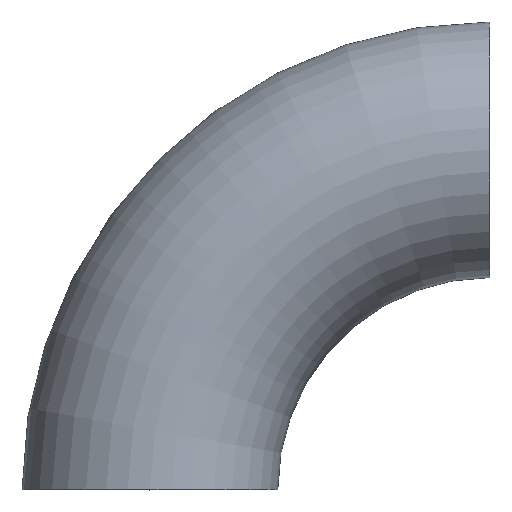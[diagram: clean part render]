
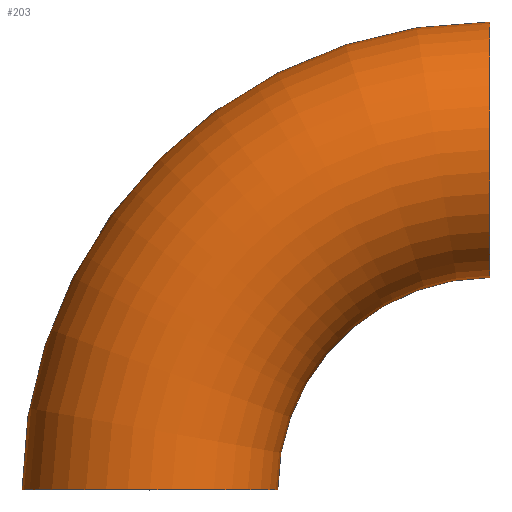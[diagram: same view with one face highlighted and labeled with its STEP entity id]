
A CAD part, top view. The second image highlights one B-rep face of the part: STEP entity #203.
In plain terms, the highlighted toroidal (fillet/blend) face has major radius 152 mm and minor radius 57.15 mm.
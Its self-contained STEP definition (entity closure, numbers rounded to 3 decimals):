
#7 = CARTESIAN_POINT ( 'NONE',  ( 152., 209.15, 0. ) ) ;
#15 = ORIENTED_EDGE ( 'NONE', *, *, #184, .T. ) ;
#27 = CARTESIAN_POINT ( 'NONE',  ( 152., 0., 0. ) ) ;
#32 = ORIENTED_EDGE ( 'NONE', *, *, #219, .F. ) ;
#39 = DIRECTION ( 'NONE',  ( 1., 0., 0. ) ) ;
#40 = FACE_OUTER_BOUND ( 'NONE', #201, .T. ) ;
#47 = TOROIDAL_SURFACE ( 'NONE', #60, 152., 57.15 ) ;
#50 = AXIS2_PLACEMENT_3D ( 'NONE', #100, #124, #252 ) ;
#57 = VERTEX_POINT ( 'NONE', #7 ) ;
#60 = AXIS2_PLACEMENT_3D ( 'NONE', #132, #61, #225 ) ;
#61 = DIRECTION ( 'NONE',  ( 0., 0., 1. ) ) ;
#72 = DIRECTION ( 'NONE',  ( 1., 0., 0. ) ) ;
#74 = AXIS2_PLACEMENT_3D ( 'NONE', #165, #82, #206 ) ;
#82 = DIRECTION ( 'NONE',  ( 0., 0., 1. ) ) ;
#91 = VERTEX_POINT ( 'NONE', #140 ) ;
#95 = AXIS2_PLACEMENT_3D ( 'NONE', #27, #169, #39 ) ;
#96 = VERTEX_POINT ( 'NONE', #226 ) ;
#99 = CIRCLE ( 'NONE', #74, 209.15 ) ;
#100 = CARTESIAN_POINT ( 'NONE',  ( 0., 0., 0. ) ) ;
#107 = DIRECTION ( 'NONE',  ( 0., 0., 1. ) ) ;
#109 = ORIENTED_EDGE ( 'NONE', *, *, #192, .F. ) ;
#112 = AXIS2_PLACEMENT_3D ( 'NONE', #211, #72, #107 ) ;
#124 = DIRECTION ( 'NONE',  ( 0., 1., 0. ) ) ;
#132 = CARTESIAN_POINT ( 'NONE',  ( 152., 0., 0. ) ) ;
#140 = CARTESIAN_POINT ( 'NONE',  ( 152., 94.85, 0. ) ) ;
#147 = CARTESIAN_POINT ( 'NONE',  ( 57.15, 0., 0. ) ) ;
#149 = ORIENTED_EDGE ( 'NONE', *, *, #178, .T. ) ;
#165 = CARTESIAN_POINT ( 'NONE',  ( 152., 0., 0. ) ) ;
#169 = DIRECTION ( 'NONE',  ( 0., 0., 1. ) ) ;
#177 = CIRCLE ( 'NONE', #95, 94.85 ) ;
#178 = EDGE_CURVE ( 'NONE', #57, #96, #99, .T. ) ;
#184 = EDGE_CURVE ( 'NONE', #96, #249, #210, .T. ) ;
#192 = EDGE_CURVE ( 'NONE', #57, #91, #227, .T. ) ;
#201 = EDGE_LOOP ( 'NONE', ( #109, #149, #15, #32 ) ) ;
#203 = ADVANCED_FACE ( 'NONE', ( #40 ), #47, .T. ) ;
#206 = DIRECTION ( 'NONE',  ( 1., 0., 0. ) ) ;
#210 = CIRCLE ( 'NONE', #50, 57.15 ) ;
#211 = CARTESIAN_POINT ( 'NONE',  ( 152., 152., 0. ) ) ;
#219 = EDGE_CURVE ( 'NONE', #91, #249, #177, .T. ) ;
#225 = DIRECTION ( 'NONE',  ( 1., 0., 0. ) ) ;
#226 = CARTESIAN_POINT ( 'NONE',  ( -57.15, 0., 0. ) ) ;
#227 = CIRCLE ( 'NONE', #112, 57.15 ) ;
#249 = VERTEX_POINT ( 'NONE', #147 ) ;
#252 = DIRECTION ( 'NONE',  ( 0., 0., 1. ) ) ;
